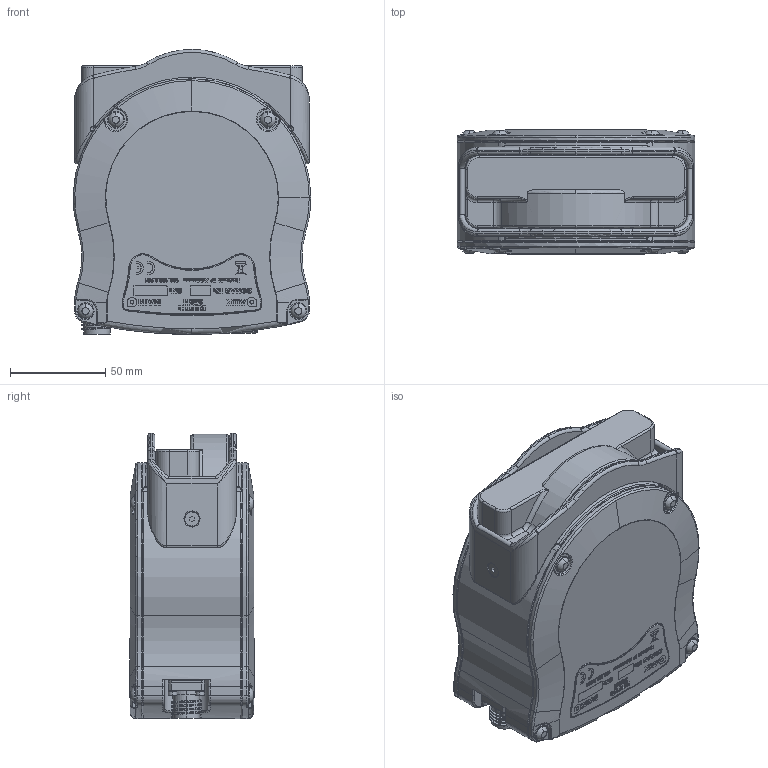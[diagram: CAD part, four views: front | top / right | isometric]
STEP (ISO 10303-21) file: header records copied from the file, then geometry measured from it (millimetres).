
FILE_DESCRIPTION (( 'STEP AP214' ), '1' );
FILE_NAME ('Gemini 1200ik - 350 m - Single Connector.STEP', '2024-06-18T08:29:22', ( '' ), ( '' ), 'SwSTEP 2.0', 'SolidWorks 2022', '' );
FILE_SCHEMA (( 'AUTOMOTIVE_DESIGN' ));
Length unit declared in the file: millimetre
Products named in the file (10): MKS(W)_307_FCR_with pin-idents; 11566 G2 720ik Front Cover; Gemini 720ik & 1200ik Housing Space Model_w-o Conn; 09942 M2.5x10 Skt Head Cap Screw A4; 11574 Gemini 720ik Product Label mock-up; 09938 Impulse Titan FCR 300 Series Insulator; 10133 M2.5 Washer A4 DIN433; 11593 M4x10 Socket C''sunk A4_B18.6.7M - M3 x 0.5 x 12 Type I Cross Recessed FHMS --20N; Gemini 1200ik - 350 m - Single Connector; 12135 Gemini 1200ik Brand Label mock-up
Assembly tree (16 placements, depth 2):
  Gemini 1200ik - 350 m - Single Connector
    Gemini 720ik & 1200ik Housing Space Model_w-o Conn
    11566 G2 720ik Front Cover
    11593 M4x10 Socket C''sunk A4_B18.6.7M - M3 x 0.5 x 12 Type I Cross Recessed FHMS --20N  x2
    11574 Gemini 720ik Product Label mock-up
    12135 Gemini 1200ik Brand Label mock-up
    MKS(W)_307_FCR_with pin-idents
    10133 M2.5 Washer A4 DIN433  x4
    09942 M2.5x10 Skt Head Cap Screw A4  x4
    09938 Impulse Titan FCR 300 Series Insulator
Bounding box: 124.95 x 65.4 x 150 mm (x, y, z)
Volume: 449445.5 mm3; surface area: 149311.3 mm2
Topology: 16 solids, 17 shells, 2637 faces, 6658 edges, 4241 vertices
Faces by surface type: plane 1061, bspline 693, cylinder 474, torus 295, cone 81, sphere 33
Entity records: 128952 total; most frequent: CARTESIAN_POINT 51535, ORIENTED_EDGE 12850, DIRECTION 10130, EDGE_CURVE 6425, VERTEX_POINT 4105, LINE 3400, VECTOR 3400, AXIS2_PLACEMENT_3D 3365
